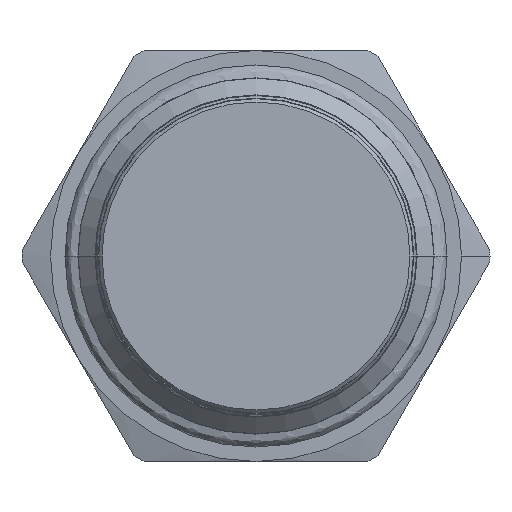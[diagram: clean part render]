
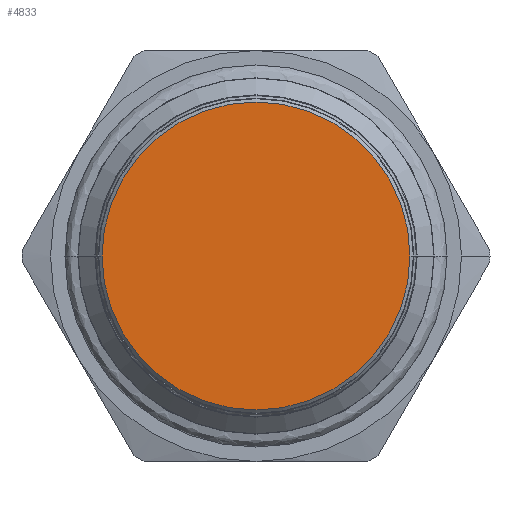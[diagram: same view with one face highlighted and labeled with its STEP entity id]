
A CAD part, front view. The second image highlights one B-rep face of the part: STEP entity #4833.
In plain terms, the highlighted planar face has unit normal (0, -1, 0).
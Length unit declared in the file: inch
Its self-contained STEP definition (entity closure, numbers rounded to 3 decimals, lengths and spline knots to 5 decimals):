
#1522=CARTESIAN_POINT('',(0.,-2.25,0.));
#1523=DIRECTION('',(0.,-1.,0.));
#1524=DIRECTION('',(1.,0.,0.));
#1525=AXIS2_PLACEMENT_3D('',#1522,#1523,#1524);
#1532=CARTESIAN_POINT('',(0.,-2.25,0.));
#1533=DIRECTION('',(0.,1.,0.));
#1534=DIRECTION('',(1.,0.,0.));
#1535=AXIS2_PLACEMENT_3D('',#1532,#1533,#1534);
#2562=CARTESIAN_POINT('',(0.7025,-2.25,0.));
#2563=CARTESIAN_POINT('',(-0.7025,-2.25,0.));
#2564=VERTEX_POINT('',#2562);
#2565=VERTEX_POINT('',#2563);
#4823=CARTESIAN_POINT('',(0.,-2.25,0.));
#4824=DIRECTION('',(0.,1.,0.));
#4825=DIRECTION('',(1.,0.,0.));
#4826=AXIS2_PLACEMENT_3D('',#4823,#4824,#4825);
#4827=PLANE('',#4826);
#4828=ORIENTED_EDGE('',*,*,#4813,.F.);
#4830=ORIENTED_EDGE('',*,*,#4829,.T.);
#4831=EDGE_LOOP('',(#4828,#4830));
#4832=FACE_OUTER_BOUND('',#4831,.F.);
#4833=ADVANCED_FACE('',(#4832),#4827,.F.);
#1526=CIRCLE('',#1525,0.7025);
#1536=CIRCLE('',#1535,0.7025);
#4813=EDGE_CURVE('',#2564,#2565,#1526,.T.);
#4829=EDGE_CURVE('',#2564,#2565,#1536,.T.);
